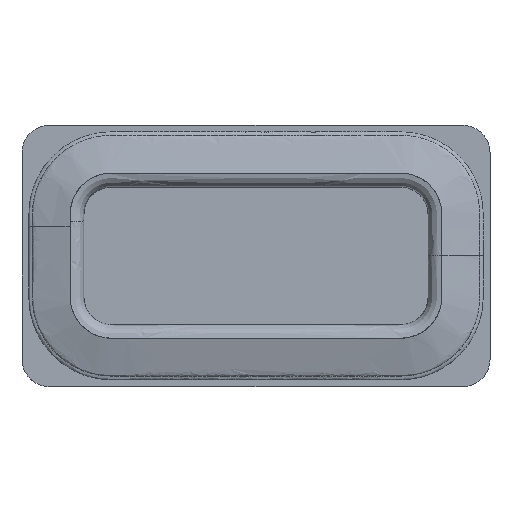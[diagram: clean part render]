
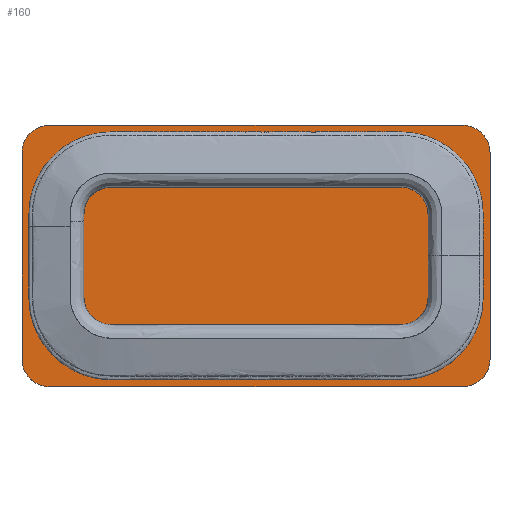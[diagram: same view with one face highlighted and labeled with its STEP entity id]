
A CAD part, top view. The second image highlights one B-rep face of the part: STEP entity #160.
In plain terms, the highlighted planar face has unit normal (0, 0, 1).
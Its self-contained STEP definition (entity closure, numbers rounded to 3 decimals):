
#15=PLANE('',#773);
#75=(
BOUNDED_CURVE()
B_SPLINE_CURVE(2,(#5379,#5380,#5381),.UNSPECIFIED.,.F.,.F.)
B_SPLINE_CURVE_WITH_KNOTS((3,3),(0.,3.142),.UNSPECIFIED.)
CURVE()
GEOMETRIC_REPRESENTATION_ITEM()
RATIONAL_B_SPLINE_CURVE((1.,0.707,1.))
REPRESENTATION_ITEM('')
);
#76=(
BOUNDED_CURVE()
B_SPLINE_CURVE(2,(#5382,#5383,#5384),.UNSPECIFIED.,.F.,.F.)
B_SPLINE_CURVE_WITH_KNOTS((3,3),(-3.142,0.),.UNSPECIFIED.)
CURVE()
GEOMETRIC_REPRESENTATION_ITEM()
RATIONAL_B_SPLINE_CURVE((1.,0.707,1.))
REPRESENTATION_ITEM('')
);
#77=(
BOUNDED_CURVE()
B_SPLINE_CURVE(2,(#5385,#5386,#5387),.UNSPECIFIED.,.F.,.F.)
B_SPLINE_CURVE_WITH_KNOTS((3,3),(0.,3.142),.UNSPECIFIED.)
CURVE()
GEOMETRIC_REPRESENTATION_ITEM()
RATIONAL_B_SPLINE_CURVE((1.,0.707,1.))
REPRESENTATION_ITEM('')
);
#78=(
BOUNDED_CURVE()
B_SPLINE_CURVE(2,(#5388,#5389,#5390),.UNSPECIFIED.,.F.,.F.)
B_SPLINE_CURVE_WITH_KNOTS((3,3),(0.,3.142),.UNSPECIFIED.)
CURVE()
GEOMETRIC_REPRESENTATION_ITEM()
RATIONAL_B_SPLINE_CURVE((1.,0.707,1.))
REPRESENTATION_ITEM('')
);
#160=ADVANCED_FACE('',(#202),#15,.T.);
#202=FACE_OUTER_BOUND('',#244,.T.);
#244=EDGE_LOOP('',(#367,#368,#369,#370,#371,#372,#373,#374));
#367=ORIENTED_EDGE('',*,*,#527,.T.);
#368=ORIENTED_EDGE('',*,*,#531,.T.);
#369=ORIENTED_EDGE('',*,*,#524,.T.);
#370=ORIENTED_EDGE('',*,*,#530,.T.);
#371=ORIENTED_EDGE('',*,*,#525,.T.);
#372=ORIENTED_EDGE('',*,*,#532,.T.);
#373=ORIENTED_EDGE('',*,*,#526,.T.);
#374=ORIENTED_EDGE('',*,*,#533,.T.);
#524=EDGE_CURVE('',#656,#655,#587,.T.);
#525=EDGE_CURVE('',#658,#657,#588,.T.);
#526=EDGE_CURVE('',#660,#659,#589,.T.);
#527=EDGE_CURVE('',#662,#661,#590,.T.);
#530=EDGE_CURVE('',#655,#658,#75,.T.);
#531=EDGE_CURVE('',#661,#656,#76,.T.);
#532=EDGE_CURVE('',#657,#660,#77,.T.);
#533=EDGE_CURVE('',#659,#662,#78,.T.);
#587=B_SPLINE_CURVE_WITH_KNOTS('',1,(#5367,#5368),.UNSPECIFIED.,.F.,.F.,
(2,2),(2.,32.),.UNSPECIFIED.);
#588=B_SPLINE_CURVE_WITH_KNOTS('',1,(#5369,#5370),.UNSPECIFIED.,.F.,.F.,
(2,2),(36.,51.),.UNSPECIFIED.);
#589=B_SPLINE_CURVE_WITH_KNOTS('',1,(#5371,#5372),.UNSPECIFIED.,.F.,.F.,
(2,2),(55.,85.),.UNSPECIFIED.);
#590=B_SPLINE_CURVE_WITH_KNOTS('',1,(#5373,#5374),.UNSPECIFIED.,.F.,.F.,
(2,2),(89.,104.),.UNSPECIFIED.);
#655=VERTEX_POINT('',#5343);
#656=VERTEX_POINT('',#5344);
#657=VERTEX_POINT('',#5345);
#658=VERTEX_POINT('',#5346);
#659=VERTEX_POINT('',#5347);
#660=VERTEX_POINT('',#5348);
#661=VERTEX_POINT('',#5349);
#662=VERTEX_POINT('',#5350);
#773=AXIS2_PLACEMENT_3D('',#5229,#783,$);
#783=DIRECTION('',(0.,0.,1.));
#5229=CARTESIAN_POINT('',(-17.,-9.5,5.));
#5343=CARTESIAN_POINT('',(15.,-9.5,5.));
#5344=CARTESIAN_POINT('',(-15.,-9.5,5.));
#5345=CARTESIAN_POINT('',(17.,7.5,5.));
#5346=CARTESIAN_POINT('',(17.,-7.5,5.));
#5347=CARTESIAN_POINT('',(-15.,9.5,5.));
#5348=CARTESIAN_POINT('',(15.,9.5,5.));
#5349=CARTESIAN_POINT('',(-17.,-7.5,5.));
#5350=CARTESIAN_POINT('',(-17.,7.5,5.));
#5367=CARTESIAN_POINT('',(-15.,-9.5,5.));
#5368=CARTESIAN_POINT('',(15.,-9.5,5.));
#5369=CARTESIAN_POINT('',(17.,-7.5,5.));
#5370=CARTESIAN_POINT('',(17.,7.5,5.));
#5371=CARTESIAN_POINT('',(15.,9.5,5.));
#5372=CARTESIAN_POINT('',(-15.,9.5,5.));
#5373=CARTESIAN_POINT('',(-17.,7.5,5.));
#5374=CARTESIAN_POINT('',(-17.,-7.5,5.));
#5379=CARTESIAN_POINT('',(15.,-9.5,5.));
#5380=CARTESIAN_POINT('',(17.,-9.5,5.));
#5381=CARTESIAN_POINT('',(17.,-7.5,5.));
#5382=CARTESIAN_POINT('',(-17.,-7.5,5.));
#5383=CARTESIAN_POINT('',(-17.,-9.5,5.));
#5384=CARTESIAN_POINT('',(-15.,-9.5,5.));
#5385=CARTESIAN_POINT('',(17.,7.5,5.));
#5386=CARTESIAN_POINT('',(17.,9.5,5.));
#5387=CARTESIAN_POINT('',(15.,9.5,5.));
#5388=CARTESIAN_POINT('',(-15.,9.5,5.));
#5389=CARTESIAN_POINT('',(-17.,9.5,5.));
#5390=CARTESIAN_POINT('',(-17.,7.5,5.));
